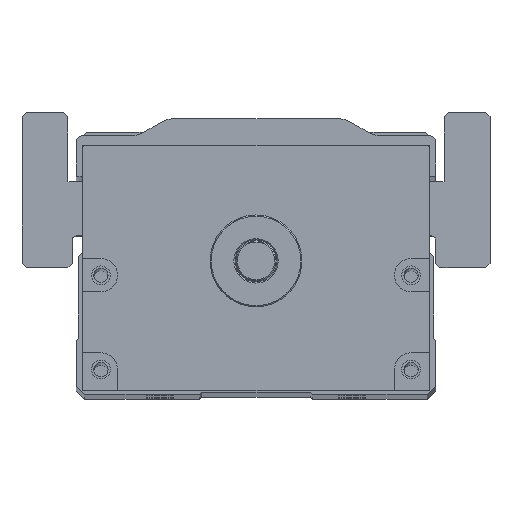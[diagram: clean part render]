
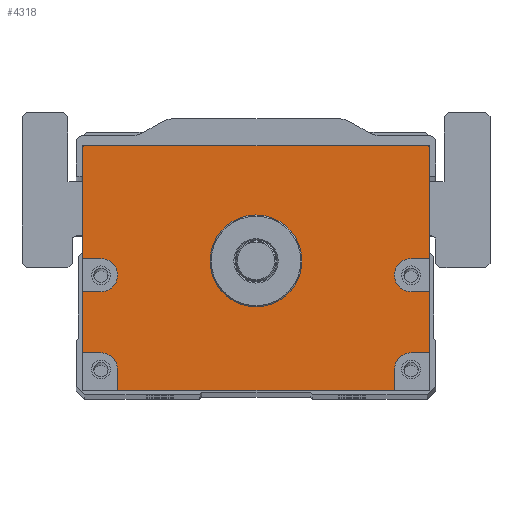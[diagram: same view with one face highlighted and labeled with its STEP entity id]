
A CAD part, top view. The second image highlights one B-rep face of the part: STEP entity #4318.
In plain terms, the highlighted planar face has unit normal (0, 0, 1).
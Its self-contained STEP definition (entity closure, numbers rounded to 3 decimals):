
#3218=FACE_BOUND('',#5947,.T.);
#3219=FACE_BOUND('',#5948,.T.);
#4318=ADVANCED_FACE('',(#3218,#3219),#4910,.T.);
#4910=PLANE('',#15118);
#5947=EDGE_LOOP('',(#9084,#9085,#9086,#9087,#9088,#9089,#9090,#9091,#9092,
#9093,#9094,#9095,#9096,#9097,#9098,#9099,#9100,#9101));
#5948=EDGE_LOOP('',(#9102));
#6818=LINE('',#21181,#7626);
#6820=LINE('',#21189,#7628);
#6821=LINE('',#21192,#7629);
#6822=LINE('',#21194,#7630);
#6823=LINE('',#21198,#7631);
#6824=LINE('',#21200,#7632);
#6825=LINE('',#21201,#7633);
#6826=LINE('',#21203,#7634);
#6827=LINE('',#21207,#7635);
#6828=LINE('',#21209,#7636);
#6829=LINE('',#21211,#7637);
#6830=LINE('',#21215,#7638);
#6831=LINE('',#21217,#7639);
#6832=LINE('',#21219,#7640);
#7626=VECTOR('',#16689,1.);
#7628=VECTOR('',#16697,1.);
#7629=VECTOR('',#16698,1.);
#7630=VECTOR('',#16699,1.);
#7631=VECTOR('',#16702,1.);
#7632=VECTOR('',#16703,1.);
#7633=VECTOR('',#16704,1.);
#7634=VECTOR('',#16705,1.);
#7635=VECTOR('',#16708,1.);
#7636=VECTOR('',#16709,1.);
#7637=VECTOR('',#16710,1.);
#7638=VECTOR('',#16713,1.);
#7639=VECTOR('',#16714,1.);
#7640=VECTOR('',#16715,1.);
#9084=ORIENTED_EDGE('',*,*,#13114,.F.);
#9085=ORIENTED_EDGE('',*,*,#13115,.T.);
#9086=ORIENTED_EDGE('',*,*,#13116,.F.);
#9087=ORIENTED_EDGE('',*,*,#13117,.F.);
#9088=ORIENTED_EDGE('',*,*,#13118,.F.);
#9089=ORIENTED_EDGE('',*,*,#13119,.T.);
#9090=ORIENTED_EDGE('',*,*,#13110,.T.);
#9091=ORIENTED_EDGE('',*,*,#13120,.T.);
#9092=ORIENTED_EDGE('',*,*,#13121,.F.);
#9093=ORIENTED_EDGE('',*,*,#13122,.F.);
#9094=ORIENTED_EDGE('',*,*,#13123,.F.);
#9095=ORIENTED_EDGE('',*,*,#13124,.T.);
#9096=ORIENTED_EDGE('',*,*,#13125,.F.);
#9097=ORIENTED_EDGE('',*,*,#13126,.F.);
#9098=ORIENTED_EDGE('',*,*,#13127,.F.);
#9099=ORIENTED_EDGE('',*,*,#13128,.T.);
#9100=ORIENTED_EDGE('',*,*,#13129,.F.);
#9101=ORIENTED_EDGE('',*,*,#13130,.F.);
#9102=ORIENTED_EDGE('',*,*,#13096,.T.);
#11815=VERTEX_POINT('',#21152);
#11828=VERTEX_POINT('',#21180);
#11829=VERTEX_POINT('',#21182);
#11832=VERTEX_POINT('',#21190);
#11833=VERTEX_POINT('',#21191);
#11834=VERTEX_POINT('',#21193);
#11835=VERTEX_POINT('',#21195);
#11836=VERTEX_POINT('',#21197);
#11837=VERTEX_POINT('',#21199);
#11838=VERTEX_POINT('',#21202);
#11839=VERTEX_POINT('',#21204);
#11840=VERTEX_POINT('',#21206);
#11841=VERTEX_POINT('',#21208);
#11842=VERTEX_POINT('',#21210);
#11843=VERTEX_POINT('',#21212);
#11844=VERTEX_POINT('',#21214);
#11845=VERTEX_POINT('',#21216);
#11846=VERTEX_POINT('',#21218);
#11847=VERTEX_POINT('',#21220);
#13096=EDGE_CURVE('',#11815,#11815,#14466,.T.);
#13110=EDGE_CURVE('',#11829,#11828,#6818,.T.);
#13114=EDGE_CURVE('',#11832,#11833,#6820,.T.);
#13115=EDGE_CURVE('',#11832,#11834,#6821,.T.);
#13116=EDGE_CURVE('',#11835,#11834,#6822,.T.);
#13117=EDGE_CURVE('',#11836,#11835,#14477,.T.);
#13118=EDGE_CURVE('',#11837,#11836,#6823,.T.);
#13119=EDGE_CURVE('',#11837,#11829,#6824,.T.);
#13120=EDGE_CURVE('',#11828,#11838,#6825,.T.);
#13121=EDGE_CURVE('',#11839,#11838,#6826,.T.);
#13122=EDGE_CURVE('',#11840,#11839,#14478,.T.);
#13123=EDGE_CURVE('',#11841,#11840,#6827,.T.);
#13124=EDGE_CURVE('',#11841,#11842,#6828,.T.);
#13125=EDGE_CURVE('',#11843,#11842,#6829,.T.);
#13126=EDGE_CURVE('',#11844,#11843,#14479,.T.);
#13127=EDGE_CURVE('',#11845,#11844,#6830,.T.);
#13128=EDGE_CURVE('',#11845,#11846,#6831,.T.);
#13129=EDGE_CURVE('',#11847,#11846,#6832,.T.);
#13130=EDGE_CURVE('',#11833,#11847,#14480,.T.);
#14466=CIRCLE('',#15100,11.);
#14477=CIRCLE('',#15114,4.);
#14478=CIRCLE('',#15115,4.);
#14479=CIRCLE('',#15116,4.);
#14480=CIRCLE('',#15117,4.);
#15100=AXIS2_PLACEMENT_3D('',#21151,#16662,#16663);
#15114=AXIS2_PLACEMENT_3D('',#21196,#16700,#16701);
#15115=AXIS2_PLACEMENT_3D('',#21205,#16706,#16707);
#15116=AXIS2_PLACEMENT_3D('',#21213,#16711,#16712);
#15117=AXIS2_PLACEMENT_3D('',#21221,#16716,#16717);
#15118=AXIS2_PLACEMENT_3D('',#21222,#16718,#16719);
#16662=DIRECTION('',(0.,0.,-1.));
#16663=DIRECTION('',(1.,0.,0.));
#16689=DIRECTION('',(-1.,0.,0.));
#16697=DIRECTION('',(-1.,0.,0.));
#16698=DIRECTION('',(0.,1.,0.));
#16699=DIRECTION('',(1.,0.,0.));
#16700=DIRECTION('',(0.,0.,1.));
#16701=DIRECTION('',(1.,0.,0.));
#16702=DIRECTION('',(-1.,0.,0.));
#16703=DIRECTION('',(0.,1.,0.));
#16704=DIRECTION('',(0.,-1.,0.));
#16705=DIRECTION('',(-1.,0.,0.));
#16706=DIRECTION('',(0.,0.,1.));
#16707=DIRECTION('',(1.,0.,0.));
#16708=DIRECTION('',(1.,0.,0.));
#16709=DIRECTION('',(0.,-1.,0.));
#16710=DIRECTION('',(-1.,0.,0.));
#16711=DIRECTION('',(0.,0.,1.));
#16712=DIRECTION('',(1.,0.,0.));
#16713=DIRECTION('',(0.,1.,0.));
#16714=DIRECTION('',(1.,0.,0.));
#16715=DIRECTION('',(0.,-1.,0.));
#16716=DIRECTION('',(0.,0.,1.));
#16717=DIRECTION('',(1.,0.,0.));
#16718=DIRECTION('',(0.,0.,1.));
#16719=DIRECTION('',(1.,0.,0.));
#21151=CARTESIAN_POINT('',(300.,0.,482.5));
#21152=CARTESIAN_POINT('',(311.,0.,482.5));
#21180=CARTESIAN_POINT('',(258.5,27.5,482.5));
#21181=CARTESIAN_POINT('',(341.5,27.5,482.5));
#21182=CARTESIAN_POINT('',(341.5,27.5,482.5));
#21189=CARTESIAN_POINT('',(341.5,-22.,482.5));
#21190=CARTESIAN_POINT('',(341.5,-22.,482.5));
#21191=CARTESIAN_POINT('',(337.115,-22.,482.5));
#21192=CARTESIAN_POINT('',(341.5,-31.,482.5));
#21193=CARTESIAN_POINT('',(341.5,-7.431,482.5));
#21194=CARTESIAN_POINT('',(341.5,-7.431,482.5));
#21195=CARTESIAN_POINT('',(337.115,-7.431,482.5));
#21196=CARTESIAN_POINT('',(337.115,-3.431,482.5));
#21197=CARTESIAN_POINT('',(337.115,0.569,482.5));
#21198=CARTESIAN_POINT('',(341.5,0.569,482.5));
#21199=CARTESIAN_POINT('',(341.5,0.569,482.5));
#21200=CARTESIAN_POINT('',(341.5,-31.,482.5));
#21201=CARTESIAN_POINT('',(258.5,27.5,482.5));
#21202=CARTESIAN_POINT('',(258.5,0.569,482.5));
#21203=CARTESIAN_POINT('',(341.5,0.569,482.5));
#21204=CARTESIAN_POINT('',(262.885,0.569,482.5));
#21205=CARTESIAN_POINT('',(262.885,-3.431,482.5));
#21206=CARTESIAN_POINT('',(262.885,-7.431,482.5));
#21207=CARTESIAN_POINT('',(341.5,-7.431,482.5));
#21208=CARTESIAN_POINT('',(258.5,-7.431,482.5));
#21209=CARTESIAN_POINT('',(258.5,27.5,482.5));
#21210=CARTESIAN_POINT('',(258.5,-22.,482.5));
#21211=CARTESIAN_POINT('',(341.5,-22.,482.5));
#21212=CARTESIAN_POINT('',(262.885,-22.,482.5));
#21213=CARTESIAN_POINT('',(262.885,-26.,482.5));
#21214=CARTESIAN_POINT('',(266.885,-26.,482.5));
#21215=CARTESIAN_POINT('',(266.885,-31.,482.5));
#21216=CARTESIAN_POINT('',(266.885,-31.,482.5));
#21217=CARTESIAN_POINT('',(258.5,-31.,482.5));
#21218=CARTESIAN_POINT('',(333.115,-31.,482.5));
#21219=CARTESIAN_POINT('',(333.115,-31.,482.5));
#21220=CARTESIAN_POINT('',(333.115,-26.,482.5));
#21221=CARTESIAN_POINT('',(337.115,-26.,482.5));
#21222=CARTESIAN_POINT('',(341.5,-31.,482.5));
